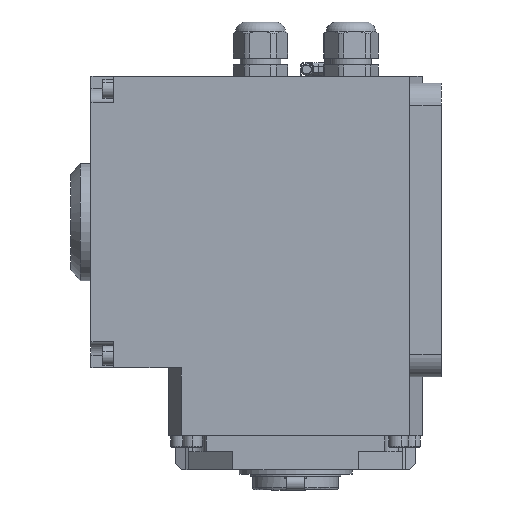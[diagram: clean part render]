
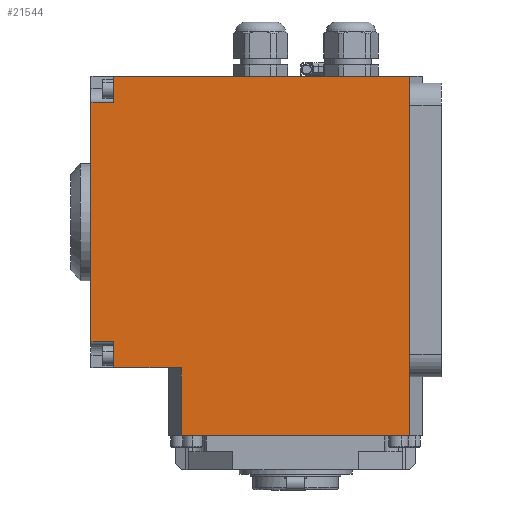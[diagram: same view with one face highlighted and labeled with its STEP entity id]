
A CAD part, left-side view. The second image highlights one B-rep face of the part: STEP entity #21544.
In plain terms, the highlighted planar face has unit normal (-1, 0, 0).
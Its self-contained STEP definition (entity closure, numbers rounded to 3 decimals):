
#637 = VECTOR ( 'NONE', #8277, 1000. ) ;
#784 = CARTESIAN_POINT ( 'NONE',  ( -134., 50.5, -15. ) ) ;
#873 = DIRECTION ( 'NONE',  ( 0., 1., 0. ) ) ;
#1233 = VERTEX_POINT ( 'NONE', #8791 ) ;
#1317 = CARTESIAN_POINT ( 'NONE',  ( -134., 90.5, 26.5 ) ) ;
#1620 = ORIENTED_EDGE ( 'NONE', *, *, #8290, .T. ) ;
#1787 = EDGE_CURVE ( 'NONE', #1233, #21013, #5634, .T. ) ;
#2398 = ORIENTED_EDGE ( 'NONE', *, *, #10200, .F. ) ;
#3117 = LINE ( 'NONE', #12086, #23239 ) ;
#3172 = EDGE_CURVE ( 'NONE', #21013, #7913, #16970, .T. ) ;
#3453 = VERTEX_POINT ( 'NONE', #11880 ) ;
#3791 = VECTOR ( 'NONE', #4402, 1000. ) ;
#3870 = VECTOR ( 'NONE', #23092, 1000. ) ;
#4402 = DIRECTION ( 'NONE',  ( 0., 1., 0. ) ) ;
#4588 = ORIENTED_EDGE ( 'NONE', *, *, #21300, .F. ) ;
#4721 = VECTOR ( 'NONE', #17869, 1000. ) ;
#5377 = EDGE_CURVE ( 'NONE', #17790, #20888, #22781, .T. ) ;
#5634 = LINE ( 'NONE', #23197, #637 ) ;
#5928 = CARTESIAN_POINT ( 'NONE',  ( -134., 80.5, 144. ) ) ;
#6755 = CARTESIAN_POINT ( 'NONE',  ( -134., 80.5, 144. ) ) ;
#7063 = CARTESIAN_POINT ( 'NONE',  ( -134., 90.5, 144. ) ) ;
#7105 = ORIENTED_EDGE ( 'NONE', *, *, #5377, .F. ) ;
#7913 = VERTEX_POINT ( 'NONE', #20256 ) ;
#7952 = DIRECTION ( 'NONE',  ( 0., 0., -1. ) ) ;
#8013 = ORIENTED_EDGE ( 'NONE', *, *, #3172, .T. ) ;
#8277 = DIRECTION ( 'NONE',  ( 0., 0., -1. ) ) ;
#8290 = EDGE_CURVE ( 'NONE', #20155, #20888, #3117, .T. ) ;
#8575 = DIRECTION ( 'NONE',  ( 0., 0., 1. ) ) ;
#8791 = CARTESIAN_POINT ( 'NONE',  ( -134., 80.5, 26.5 ) ) ;
#8846 = LINE ( 'NONE', #22940, #3870 ) ;
#9253 = CARTESIAN_POINT ( 'NONE',  ( -134., 80.5, 15. ) ) ;
#9276 = DIRECTION ( 'NONE',  ( 0., -1., 0. ) ) ;
#9757 = PLANE ( 'NONE',  #11759 ) ;
#10200 = EDGE_CURVE ( 'NONE', #3453, #16952, #8846, .T. ) ;
#10381 = VECTOR ( 'NONE', #7952, 1000. ) ;
#11090 = VERTEX_POINT ( 'NONE', #784 ) ;
#11200 = CARTESIAN_POINT ( 'NONE',  ( -134., 90.5, 26.5 ) ) ;
#11357 = CARTESIAN_POINT ( 'NONE',  ( -134., 90.5, 144. ) ) ;
#11759 = AXIS2_PLACEMENT_3D ( 'NONE', #11357, #13383, #20588 ) ;
#11880 = CARTESIAN_POINT ( 'NONE',  ( -134., -50.5, 144. ) ) ;
#12014 = CARTESIAN_POINT ( 'NONE',  ( -134., 80.5, 132.5 ) ) ;
#12086 = CARTESIAN_POINT ( 'NONE',  ( -134., 90.5, 132.5 ) ) ;
#12194 = ORIENTED_EDGE ( 'NONE', *, *, #1787, .T. ) ;
#12252 = DIRECTION ( 'NONE',  ( 0., -1., 0. ) ) ;
#12255 = EDGE_CURVE ( 'NONE', #7913, #11090, #13878, .T. ) ;
#13383 = DIRECTION ( 'NONE',  ( 1., 0., 0. ) ) ;
#13746 = LINE ( 'NONE', #6755, #21347 ) ;
#13878 = LINE ( 'NONE', #17172, #10381 ) ;
#13930 = EDGE_CURVE ( 'NONE', #16600, #3453, #22537, .T. ) ;
#14351 = CARTESIAN_POINT ( 'NONE',  ( -134., 90.5, 144. ) ) ;
#14385 = DIRECTION ( 'NONE',  ( 0., 0., 1. ) ) ;
#14657 = LINE ( 'NONE', #11200, #24033 ) ;
#15619 = EDGE_LOOP ( 'NONE', ( #8013, #20069, #20010, #2398, #17691, #4588, #1620, #7105, #23240, #12194 ) ) ;
#16600 = VERTEX_POINT ( 'NONE', #5928 ) ;
#16952 = VERTEX_POINT ( 'NONE', #22493 ) ;
#16970 = LINE ( 'NONE', #21612, #4721 ) ;
#17172 = CARTESIAN_POINT ( 'NONE',  ( -134., 50.5, 0. ) ) ;
#17209 = LINE ( 'NONE', #23168, #3791 ) ;
#17691 = ORIENTED_EDGE ( 'NONE', *, *, #13930, .F. ) ;
#17790 = VERTEX_POINT ( 'NONE', #1317 ) ;
#17869 = DIRECTION ( 'NONE',  ( 0., -1., 0. ) ) ;
#18049 = CARTESIAN_POINT ( 'NONE',  ( -134., 90.5, 132.5 ) ) ;
#19268 = FACE_OUTER_BOUND ( 'NONE', #15619, .T. ) ;
#19804 = EDGE_CURVE ( 'NONE', #17790, #1233, #14657, .T. ) ;
#20010 = ORIENTED_EDGE ( 'NONE', *, *, #22361, .F. ) ;
#20069 = ORIENTED_EDGE ( 'NONE', *, *, #12255, .T. ) ;
#20155 = VERTEX_POINT ( 'NONE', #12014 ) ;
#20256 = CARTESIAN_POINT ( 'NONE',  ( -134., 50.5, 15. ) ) ;
#20508 = VECTOR ( 'NONE', #12252, 1000. ) ;
#20588 = DIRECTION ( 'NONE',  ( 0., 1., 0. ) ) ;
#20888 = VERTEX_POINT ( 'NONE', #18049 ) ;
#21013 = VERTEX_POINT ( 'NONE', #9253 ) ;
#21300 = EDGE_CURVE ( 'NONE', #20155, #16600, #13746, .T. ) ;
#21347 = VECTOR ( 'NONE', #8575, 1000. ) ;
#21544 = ADVANCED_FACE ( 'NONE', ( #19268 ), #9757, .F. ) ;
#21612 = CARTESIAN_POINT ( 'NONE',  ( -134., 90.5, 15. ) ) ;
#22361 = EDGE_CURVE ( 'NONE', #16952, #11090, #17209, .T. ) ;
#22493 = CARTESIAN_POINT ( 'NONE',  ( -134., -50.5, -15. ) ) ;
#22537 = LINE ( 'NONE', #14351, #20508 ) ;
#22781 = LINE ( 'NONE', #7063, #24259 ) ;
#22940 = CARTESIAN_POINT ( 'NONE',  ( -134., -50.5, 0. ) ) ;
#23092 = DIRECTION ( 'NONE',  ( 0., 0., -1. ) ) ;
#23168 = CARTESIAN_POINT ( 'NONE',  ( -134., 56., -15. ) ) ;
#23197 = CARTESIAN_POINT ( 'NONE',  ( -134., 80.5, 144. ) ) ;
#23239 = VECTOR ( 'NONE', #873, 1000. ) ;
#23240 = ORIENTED_EDGE ( 'NONE', *, *, #19804, .T. ) ;
#24033 = VECTOR ( 'NONE', #9276, 1000. ) ;
#24259 = VECTOR ( 'NONE', #14385, 1000. ) ;
